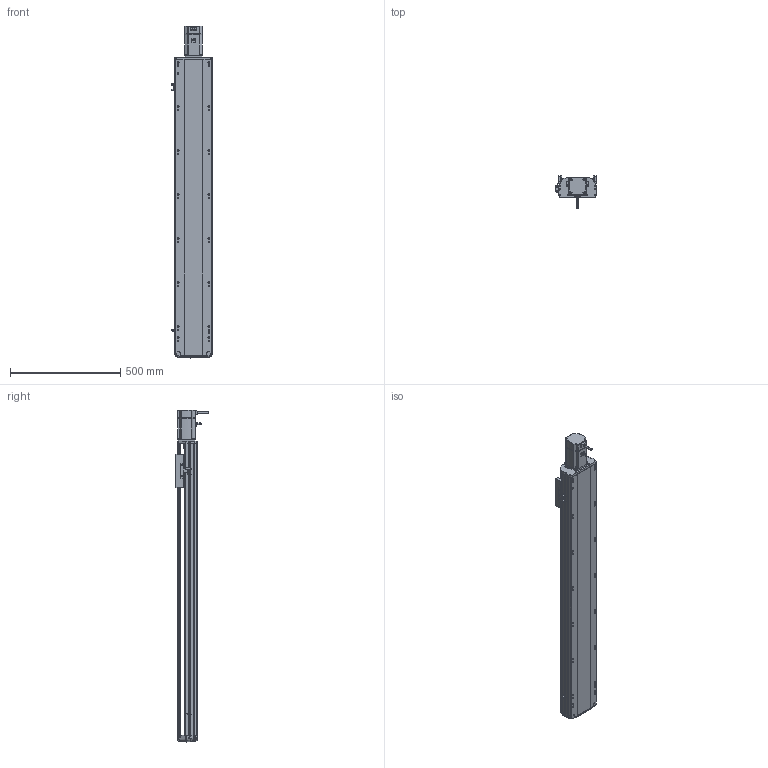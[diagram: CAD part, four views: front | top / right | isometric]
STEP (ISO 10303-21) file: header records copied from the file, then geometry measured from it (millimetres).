
FILE_DESCRIPTION (( 'STEP AP214' ), '1' );
FILE_NAME ('RTH17-XX-1100-E-M75-C4.STEP', '2025-10-24T09:58:31', ( '' ), ( '' ), 'SwSTEP 2.0', 'SolidWorks 2018', '' );
FILE_SCHEMA (( 'AUTOMOTIVE_DESIGN' ));
Length unit declared in the file: millimetre
Products named in the file (9): RTH17-XX-1100-E-M75-C4; N_RTH-L-012 感应片(外置)^RTH17-XX-XX-E-M75-C4（方程式）; N_RTH17-E-004丝杆螺母连接座^RTH17-XX-XX-E-M75-C4（方程式）; N_RTH17-E-008-P75电机板^RTH17-XX-XX-E-M75-C4（方程式）; N_RTH17-E-007上盖^RTH17-XX-XX-E-M75-C4（方程式）; N_OMRON EE-SX672 換覜ん^RTH17-XX-XX-E-M75-C4ㄗ源最宒ㄘ; N_M75^RTH17-XX-XX-E-M75-C4（方程式）; N_RTH17-GY-001P^RTH17-XX-XX-E-M75-C4（方程式）; N_RTH17-E-011底座^RTH17-XX-XX-E-M75-C4（方程式）
Assembly tree (10 placements, depth 2):
  RTH17-XX-1100-E-M75-C4
    N_RTH17-E-011底座^RTH17-XX-XX-E-M75-C4（方程式）
    N_RTH17-E-007上盖^RTH17-XX-XX-E-M75-C4（方程式）
    N_M75^RTH17-XX-XX-E-M75-C4（方程式）
    N_RTH17-E-008-P75电机板^RTH17-XX-XX-E-M75-C4（方程式）
    N_OMRON EE-SX672 換覜ん^RTH17-XX-XX-E-M75-C4ㄗ源最宒ㄘ  x3
    N_RTH-L-012 感应片(外置)^RTH17-XX-XX-E-M75-C4（方程式）
    N_RTH17-E-004丝杆螺母连接座^RTH17-XX-XX-E-M75-C4（方程式）
    N_RTH17-GY-001P^RTH17-XX-XX-E-M75-C4（方程式）
Bounding box: 183.5 x 145.7 x 1508.19 mm (x, y, z)
Volume: 10941107.7 mm3; surface area: 1421932.7 mm2
Topology: 9 solids, 11 shells, 1812 faces, 5037 edges, 3266 vertices
Faces by surface type: plane 828, cylinder 570, bspline 377, cone 28, torus 9
Entity records: 54070 total; most frequent: CARTESIAN_POINT 21171, ORIENTED_EDGE 7098, DIRECTION 5957, EDGE_CURVE 3553, VERTEX_POINT 2302, AXIS2_PLACEMENT_3D 2039, LINE 1879, VECTOR 1879
